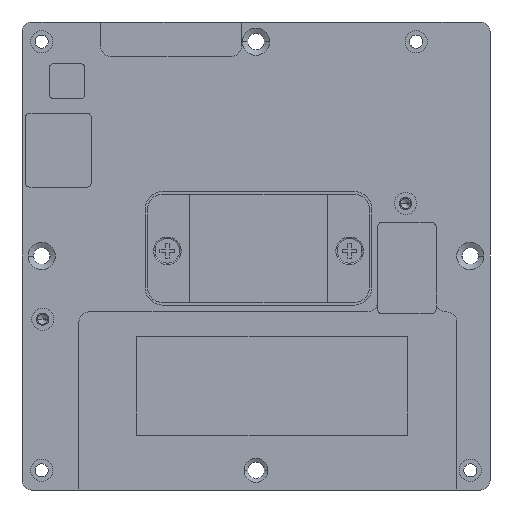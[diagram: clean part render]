
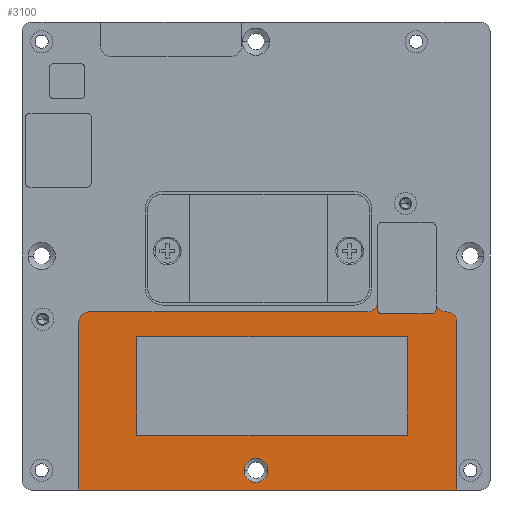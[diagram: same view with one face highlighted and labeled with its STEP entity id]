
A CAD part, front view. The second image highlights one B-rep face of the part: STEP entity #3100.
In plain terms, the highlighted planar face has unit normal (0, -1, 0).
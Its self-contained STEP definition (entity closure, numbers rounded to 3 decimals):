
#625=DIRECTION('',(1.,0.,0.));
#626=VECTOR('',#625,76.7);
#627=CARTESIAN_POINT('',(-35.935,6.19,-47.5));
#628=LINE('',#627,#626);
#750=CARTESIAN_POINT('',(22.653,6.19,-9.36));
#751=DIRECTION('',(0.,1.,0.));
#752=DIRECTION('',(1.,0.,0.));
#753=AXIS2_PLACEMENT_3D('',#750,#751,#752);
#767=DIRECTION('',(0.,0.,-1.));
#768=VECTOR('',#767,1.375);
#769=CARTESIAN_POINT('',(24.653,6.19,-9.36));
#770=LINE('',#769,#768);
#812=CARTESIAN_POINT('',(25.653,6.19,-10.735));
#813=DIRECTION('',(0.,1.,0.));
#814=DIRECTION('',(0.,0.,-1.));
#815=AXIS2_PLACEMENT_3D('',#812,#813,#814);
#825=CARTESIAN_POINT('',(35.562,6.19,-10.735));
#826=DIRECTION('',(0.,1.,0.));
#827=DIRECTION('',(1.,0.,0.));
#828=AXIS2_PLACEMENT_3D('',#825,#826,#827);
#834=DIRECTION('',(0.,0.,-1.));
#835=VECTOR('',#834,1.375);
#836=CARTESIAN_POINT('',(36.562,6.19,-9.36));
#837=LINE('',#836,#835);
#846=CARTESIAN_POINT('',(38.562,6.19,-9.36));
#847=DIRECTION('',(0.,1.,0.));
#848=DIRECTION('',(0.,0.,-1.));
#849=AXIS2_PLACEMENT_3D('',#846,#847,#848);
#851=CARTESIAN_POINT('',(0.,6.19,-43.5));
#852=DIRECTION('',(0.,1.,0.));
#853=DIRECTION('',(1.,0.,0.));
#854=AXIS2_PLACEMENT_3D('',#851,#852,#853);
#856=CARTESIAN_POINT('',(0.,6.19,-43.5));
#857=DIRECTION('',(0.,1.,0.));
#858=DIRECTION('',(-1.,0.,0.));
#859=AXIS2_PLACEMENT_3D('',#856,#857,#858);
#861=DIRECTION('',(1.,0.,0.));
#862=VECTOR('',#861,9.91);
#863=CARTESIAN_POINT('',(25.653,6.19,-11.735));
#864=LINE('',#863,#862);
#865=DIRECTION('',(-1.,0.,0.));
#866=VECTOR('',#865,0.203);
#867=CARTESIAN_POINT('',(38.765,6.19,-11.36));
#868=LINE('',#867,#866);
#869=CARTESIAN_POINT('',(38.765,6.19,-13.36));
#870=DIRECTION('',(0.,-1.,0.));
#871=DIRECTION('',(1.,0.,0.));
#872=AXIS2_PLACEMENT_3D('',#869,#870,#871);
#874=DIRECTION('',(0.,0.,-1.));
#875=VECTOR('',#874,34.14);
#876=CARTESIAN_POINT('',(40.765,6.19,-13.36));
#877=LINE('',#876,#875);
#878=DIRECTION('',(0.,0.,1.));
#879=VECTOR('',#878,34.14);
#880=CARTESIAN_POINT('',(-35.935,6.19,-47.5));
#881=LINE('',#880,#879);
#882=CARTESIAN_POINT('',(-33.935,6.19,-13.36));
#883=DIRECTION('',(0.,-1.,0.));
#884=DIRECTION('',(0.,0.,1.));
#885=AXIS2_PLACEMENT_3D('',#882,#883,#884);
#887=DIRECTION('',(-1.,0.,0.));
#888=VECTOR('',#887,56.588);
#889=CARTESIAN_POINT('',(22.653,6.19,-11.36));
#890=LINE('',#889,#888);
#891=DIRECTION('',(-1.,0.,0.));
#892=VECTOR('',#891,55.);
#893=CARTESIAN_POINT('',(30.765,6.19,-16.36));
#894=LINE('',#893,#892);
#895=DIRECTION('',(0.,0.,-1.));
#896=VECTOR('',#895,20.);
#897=CARTESIAN_POINT('',(-24.235,6.19,-16.36));
#898=LINE('',#897,#896);
#899=DIRECTION('',(1.,0.,0.));
#900=VECTOR('',#899,55.);
#901=CARTESIAN_POINT('',(-24.235,6.19,-36.36));
#902=LINE('',#901,#900);
#903=DIRECTION('',(0.,0.,1.));
#904=VECTOR('',#903,20.);
#905=CARTESIAN_POINT('',(30.765,6.19,-36.36));
#906=LINE('',#905,#904);
#1937=CARTESIAN_POINT('',(-35.935,6.19,-47.5));
#1938=VERTEX_POINT('',#1937);
#1939=CARTESIAN_POINT('',(40.765,6.19,-47.5));
#1940=VERTEX_POINT('',#1939);
#1941=CARTESIAN_POINT('',(40.765,6.19,-13.36));
#1942=VERTEX_POINT('',#1941);
#1943=CARTESIAN_POINT('',(38.765,6.19,-11.36));
#1944=VERTEX_POINT('',#1943);
#1945=CARTESIAN_POINT('',(-33.935,6.19,-11.36));
#1946=VERTEX_POINT('',#1945);
#1947=CARTESIAN_POINT('',(-35.935,6.19,-13.36));
#1948=VERTEX_POINT('',#1947);
#1949=CARTESIAN_POINT('',(2.421,6.19,-43.5));
#1950=CARTESIAN_POINT('',(-2.421,6.19,-43.5));
#1951=VERTEX_POINT('',#1949);
#1952=VERTEX_POINT('',#1950);
#1953=CARTESIAN_POINT('',(25.653,6.19,-11.735));
#1954=CARTESIAN_POINT('',(24.653,6.19,-10.735));
#1955=VERTEX_POINT('',#1953);
#1956=VERTEX_POINT('',#1954);
#1957=CARTESIAN_POINT('',(36.562,6.19,-10.735));
#1958=CARTESIAN_POINT('',(35.562,6.19,-11.735));
#1959=VERTEX_POINT('',#1957);
#1960=VERTEX_POINT('',#1958);
#1961=CARTESIAN_POINT('',(24.653,6.19,-9.36));
#1962=VERTEX_POINT('',#1961);
#1963=CARTESIAN_POINT('',(22.653,6.19,-11.36));
#1964=VERTEX_POINT('',#1963);
#1965=CARTESIAN_POINT('',(36.562,6.19,-9.36));
#1966=VERTEX_POINT('',#1965);
#1967=CARTESIAN_POINT('',(38.562,6.19,-11.36));
#1968=VERTEX_POINT('',#1967);
#2025=CARTESIAN_POINT('',(30.765,6.19,-16.36));
#2026=CARTESIAN_POINT('',(-24.235,6.19,-16.36));
#2027=VERTEX_POINT('',#2025);
#2028=VERTEX_POINT('',#2026);
#2029=CARTESIAN_POINT('',(-24.235,6.19,-36.36));
#2030=VERTEX_POINT('',#2029);
#2031=CARTESIAN_POINT('',(30.765,6.19,-36.36));
#2032=VERTEX_POINT('',#2031);
#3061=CARTESIAN_POINT('',(0.,6.19,0.));
#3062=DIRECTION('',(0.,1.,0.));
#3063=DIRECTION('',(1.,0.,0.));
#3064=AXIS2_PLACEMENT_3D('',#3061,#3062,#3063);
#3065=PLANE('',#3064);
#3066=ORIENTED_EDGE('',*,*,#2997,.F.);
#3067=ORIENTED_EDGE('',*,*,#3012,.T.);
#3068=ORIENTED_EDGE('',*,*,#3025,.F.);
#3069=ORIENTED_EDGE('',*,*,#3038,.F.);
#3070=ORIENTED_EDGE('',*,*,#3056,.F.);
#3071=ORIENTED_EDGE('',*,*,#2916,.F.);
#3073=ORIENTED_EDGE('',*,*,#3072,.F.);
#3075=ORIENTED_EDGE('',*,*,#3074,.T.);
#3076=ORIENTED_EDGE('',*,*,#2715,.F.);
#3077=ORIENTED_EDGE('',*,*,#2871,.T.);
#3078=ORIENTED_EDGE('',*,*,#2885,.F.);
#3079=ORIENTED_EDGE('',*,*,#2899,.F.);
#3080=ORIENTED_EDGE('',*,*,#2929,.F.);
#3081=ORIENTED_EDGE('',*,*,#2948,.T.);
#3082=EDGE_LOOP('',(#3066,#3067,#3068,#3069,#3070,#3071,#3073,#3075,#3076,#3077,
#3078,#3079,#3080,#3081));
#3083=FACE_OUTER_BOUND('',#3082,.F.);
#3085=ORIENTED_EDGE('',*,*,#3084,.F.);
#3087=ORIENTED_EDGE('',*,*,#3086,.F.);
#3088=EDGE_LOOP('',(#3085,#3087));
#3089=FACE_BOUND('',#3088,.F.);
#3091=ORIENTED_EDGE('',*,*,#3090,.T.);
#3093=ORIENTED_EDGE('',*,*,#3092,.T.);
#3095=ORIENTED_EDGE('',*,*,#3094,.T.);
#3097=ORIENTED_EDGE('',*,*,#3096,.T.);
#3098=EDGE_LOOP('',(#3091,#3093,#3095,#3097));
#3099=FACE_BOUND('',#3098,.F.);
#3100=ADVANCED_FACE('',(#3083,#3089,#3099),#3065,.F.);
#754=CIRCLE('',#753,2.);
#816=CIRCLE('',#815,1.);
#829=CIRCLE('',#828,1.);
#850=CIRCLE('',#849,2.);
#855=CIRCLE('',#854,2.421);
#860=CIRCLE('',#859,2.421);
#873=CIRCLE('',#872,2.);
#886=CIRCLE('',#885,2.);
#2715=EDGE_CURVE('',#1938,#1940,#628,.T.);
#2871=EDGE_CURVE('',#1938,#1948,#881,.T.);
#2885=EDGE_CURVE('',#1946,#1948,#886,.T.);
#2899=EDGE_CURVE('',#1964,#1946,#890,.T.);
#2916=EDGE_CURVE('',#1944,#1968,#868,.T.);
#2929=EDGE_CURVE('',#1962,#1964,#754,.T.);
#2948=EDGE_CURVE('',#1962,#1956,#770,.T.);
#2997=EDGE_CURVE('',#1955,#1956,#816,.T.);
#3012=EDGE_CURVE('',#1955,#1960,#864,.T.);
#3025=EDGE_CURVE('',#1959,#1960,#829,.T.);
#3038=EDGE_CURVE('',#1966,#1959,#837,.T.);
#3056=EDGE_CURVE('',#1968,#1966,#850,.T.);
#3072=EDGE_CURVE('',#1942,#1944,#873,.T.);
#3074=EDGE_CURVE('',#1942,#1940,#877,.T.);
#3084=EDGE_CURVE('',#1951,#1952,#855,.T.);
#3086=EDGE_CURVE('',#1952,#1951,#860,.T.);
#3090=EDGE_CURVE('',#2027,#2028,#894,.T.);
#3092=EDGE_CURVE('',#2028,#2030,#898,.T.);
#3094=EDGE_CURVE('',#2030,#2032,#902,.T.);
#3096=EDGE_CURVE('',#2032,#2027,#906,.T.);
